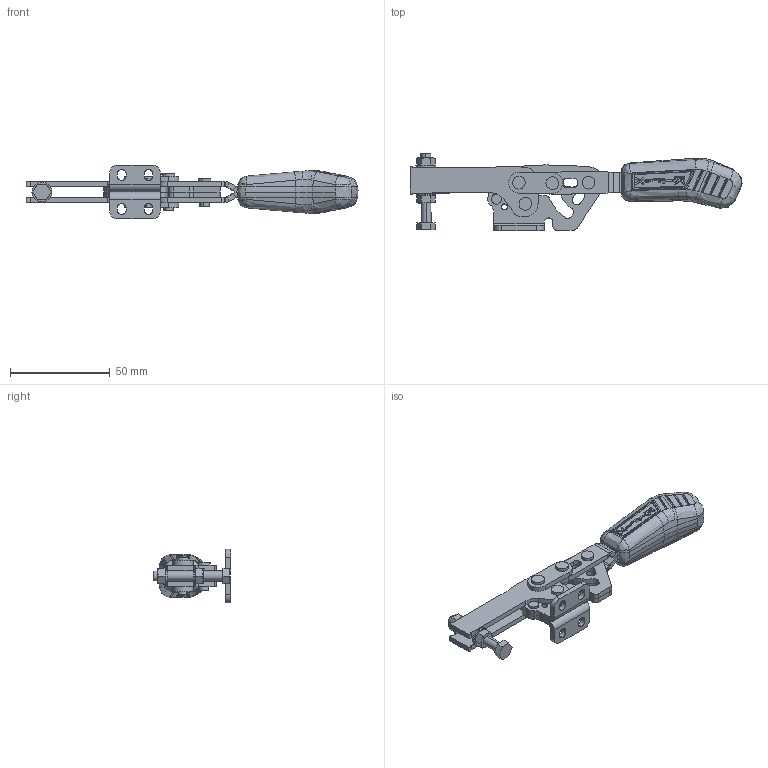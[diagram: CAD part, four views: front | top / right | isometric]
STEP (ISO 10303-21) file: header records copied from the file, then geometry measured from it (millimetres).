
FILE_DESCRIPTION (( 'STEP AP203' ), '1' );
FILE_NAME ('KF-524.STEP', '2022-07-06T13:41:03', ( '' ), ( '' ), 'SwSTEP 2.0', 'SolidWorks 2021', '' );
FILE_SCHEMA (( 'CONFIG_CONTROL_DESIGN' ));
Length unit declared in the file: millimetre
Products named in the file (13): 02.12156_ESQUERDA; 3033000182; 08.10104; 12.50018; KF-524; 3670000032; 02.12156; 17.50007; 11.50005; 07.60005; 01.10252; 03.13061; 3670000099
Assembly tree (19 placements, depth 2):
  KF-524
    01.10252  x2
    02.12156
    02.12156_ESQUERDA
    03.13061  x2
    08.10104  x2
    3670000032  x2
    3670000099  x2
    07.60005
    3033000182
    12.50018
    11.50005  x2
    17.50007  x2
Bounding box: 166.73 x 38.95 x 27 mm (x, y, z)
Volume: 36630.8 mm3; surface area: 27586.5 mm2
Topology: 19 solids, 19 shells, 1043 faces, 2666 edges, 1681 vertices
Faces by surface type: cylinder 378, plane 284, bspline 273, cone 56, sphere 50, torus 2
Entity records: 36256 total; most frequent: CARTESIAN_POINT 14731, ORIENTED_EDGE 4716, DIRECTION 3459, EDGE_CURVE 2358, VERTEX_POINT 1491, AXIS2_PLACEMENT_3D 1301, EDGE_LOOP 991, FACE_OUTER_BOUND 913
